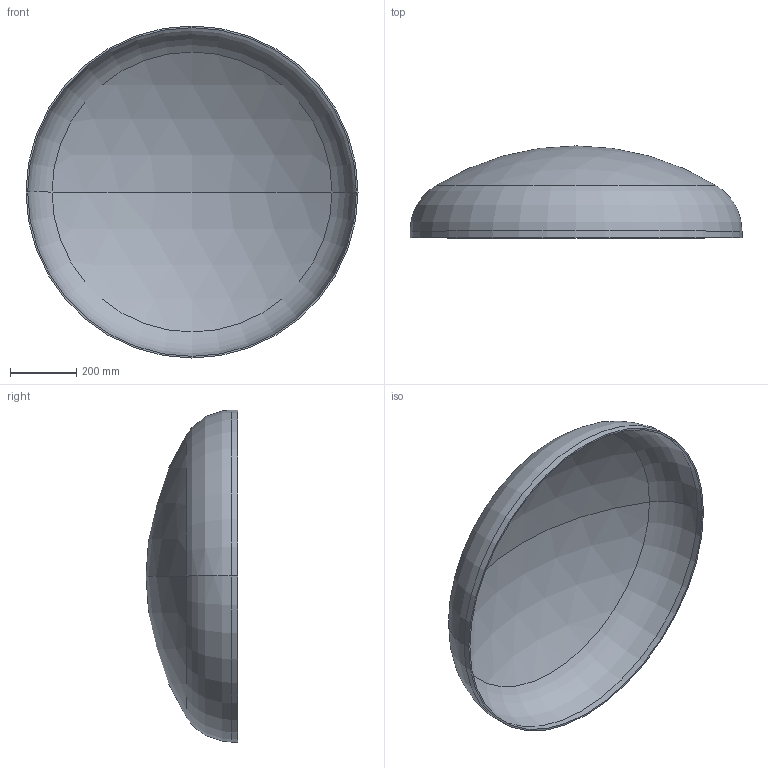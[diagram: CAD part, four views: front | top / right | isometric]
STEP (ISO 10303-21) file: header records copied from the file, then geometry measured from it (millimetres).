
FILE_DESCRIPTION (( 'STEP AP203' ), '1' );
FILE_NAME ('DIN 28013 Korbbogenform_-_Boden DIN 28013 - 1000 x 20 - I - s=5.step', '2016-07-01T08:40:30', ( '' ), ( '' ), 'SwSTEP 2.0', 'SolidWorks 2013', '' );
FILE_SCHEMA (( 'CONFIG_CONTROL_DESIGN' ));
Length unit declared in the file: millimetre
Products named in the file (1): DIN 28013 Korbbogenform_-_Boden DIN 28013 - 1000 x 20 - I - s=5
Bounding box: 1000 x 276.89 x 1000 mm (x, y, z)
Volume: 5722608.4 mm3; surface area: 2304724.2 mm2
Topology: 1 solids, 1 shells, 13 faces, 24 edges, 14 vertices
Faces by surface type: torus 4, cylinder 4, sphere 4, plane 1
Entity records: 407 total; most frequent: DIRECTION 72, CARTESIAN_POINT 52, ORIENTED_EDGE 48, AXIS2_PLACEMENT_3D 34, EDGE_CURVE 24, CIRCLE 20, EDGE_LOOP 14, VERTEX_POINT 14
